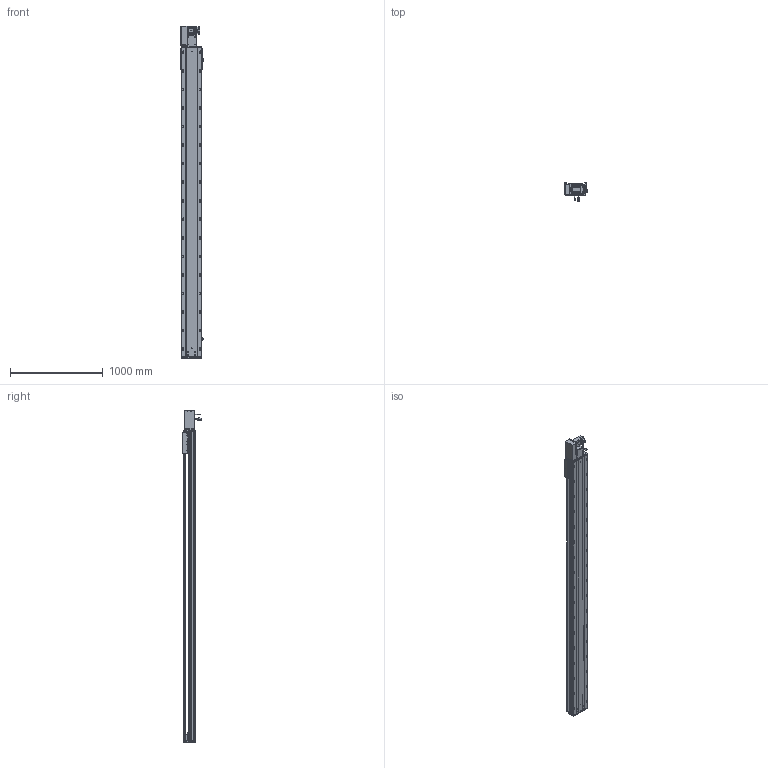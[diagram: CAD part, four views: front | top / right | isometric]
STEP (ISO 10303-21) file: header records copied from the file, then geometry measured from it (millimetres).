
FILE_DESCRIPTION (( 'STEP AP203' ), '1' );
FILE_NAME ('RY220-T-300-LK.SLDASM_3000.step', '2022-07-25T08:16:39', ( '' ), ( '' ), 'SwSTEP 2.0', 'SolidWorks 2016', '' );
FILE_SCHEMA (( 'CONFIG_CONTROL_DESIGN' ));
Length unit declared in the file: millimetre
Products named in the file (14): RY220-同步轮副支撑座6304×2; RY220-T-湍謫欶(鍼踢); RY220-T菁釱-300_3000; RY220翋肮祭謫釱; 覜茼ん672; RY220-T-300-奻裔啣_3000; 110A-T-肮祭謫釱傷裔; RY220-俋离672覜茼んえ; 怢湛750W_ECMA-CX0807ES; RY220-T-300-LK.SLDASM_3000; RY220圉猾敕々湍臏賑輸; RY220-T-蛌殏萇儂假蚾啣(750W); RY220翋肮祭謫裔啣; 滅袉蝶18-15
Assembly tree (18 placements, depth 2):
  RY220-T-300-LK.SLDASM_3000
    RY220-T菁釱-300_3000
    RY220翋肮祭謫釱
    覜茼ん672  x3
    RY220圉猾敕々湍臏賑輸
    RY220-T-300-奻裔啣_3000
    RY220-俋离672覜茼んえ
    滅袉蝶18-15  x3
    RY220翋肮祭謫裔啣  x2
    110A-T-肮祭謫釱傷裔
    怢湛750W_ECMA-CX0807ES
    RY220-T-湍謫欶(鍼踢)
    RY220-T-蛌殏萇儂假蚾啣(750W)
    RY220-同步轮副支撑座6304×2
Bounding box: 239.7 x 198.77 x 3579 mm (x, y, z)
Volume: 25205247.5 mm3; surface area: 7798765.6 mm2
Topology: 19 solids, 19 shells, 3028 faces, 8375 edges, 5240 vertices
Faces by surface type: cylinder 1496, plane 1069, cone 381, bspline 56, sphere 16, torus 10
Entity records: 100931 total; most frequent: CARTESIAN_POINT 28435, ORIENTED_EDGE 14970, DIRECTION 14476, EDGE_CURVE 7485, AXIS2_PLACEMENT_3D 5230, VERTEX_POINT 4864, VECTOR 4016, LINE 4016
